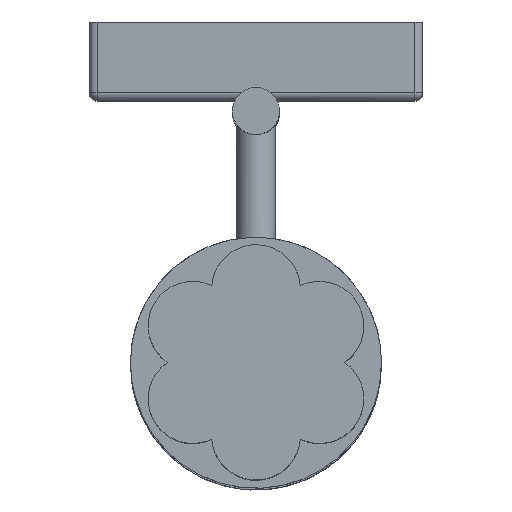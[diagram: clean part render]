
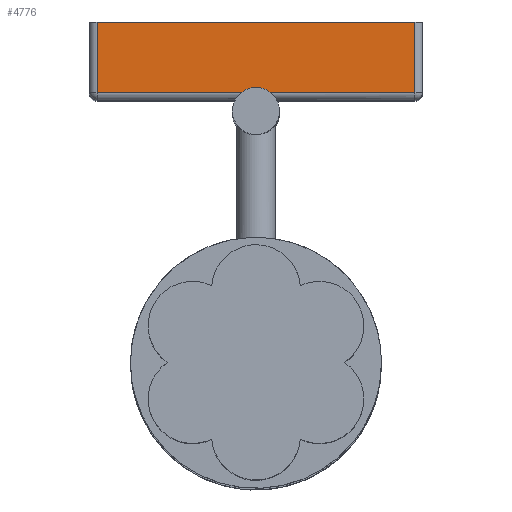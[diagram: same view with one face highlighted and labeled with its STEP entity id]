
A CAD part, top view. The second image highlights one B-rep face of the part: STEP entity #4776.
In plain terms, the highlighted planar face has unit normal (0, 0, 1).
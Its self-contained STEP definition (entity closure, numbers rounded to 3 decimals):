
#95 = CARTESIAN_POINT ( 'NONE',  ( 63556.078, -50.921, 814.566 ) ) ;
#625 = DIRECTION ( 'NONE',  ( 1., 0., 0. ) ) ;
#1002 = EDGE_CURVE ( 'NONE', #5498, #1252, #4849, .T. ) ;
#1252 = VERTEX_POINT ( 'NONE', #2782 ) ;
#1355 = FACE_OUTER_BOUND ( 'NONE', #4401, .T. ) ;
#1499 = VERTEX_POINT ( 'NONE', #2551 ) ;
#1676 = ORIENTED_EDGE ( 'NONE', *, *, #6156, .T. ) ;
#1856 = ORIENTED_EDGE ( 'NONE', *, *, #3988, .F. ) ;
#2160 = AXIS2_PLACEMENT_3D ( 'NONE', #95, #4055, #6379 ) ;
#2317 = ORIENTED_EDGE ( 'NONE', *, *, #4424, .T. ) ;
#2319 = PLANE ( 'NONE',  #3041 ) ;
#2496 = DIRECTION ( 'NONE',  ( 0., 0., 1. ) ) ;
#2551 = CARTESIAN_POINT ( 'NONE',  ( 63515.589, -28., 814.566 ) ) ;
#2569 = ORIENTED_EDGE ( 'NONE', *, *, #7265, .T. ) ;
#2778 = CARTESIAN_POINT ( 'NONE',  ( 63596.589, -28., 814.566 ) ) ;
#2782 = CARTESIAN_POINT ( 'NONE',  ( 63559.51, -46., 814.566 ) ) ;
#2805 = LINE ( 'NONE', #6356, #6692 ) ;
#2829 = LINE ( 'NONE', #6991, #6562 ) ;
#3041 = AXIS2_PLACEMENT_3D ( 'NONE', #4573, #2496, #5226 ) ;
#3550 = VERTEX_POINT ( 'NONE', #4050 ) ;
#3572 = LINE ( 'NONE', #5319, #4381 ) ;
#3671 = CARTESIAN_POINT ( 'NONE',  ( 63552.645, -46., 814.566 ) ) ;
#3988 = EDGE_CURVE ( 'NONE', #1499, #6520, #3572, .T. ) ;
#4050 = CARTESIAN_POINT ( 'NONE',  ( 63515.589, -46., 814.566 ) ) ;
#4055 = DIRECTION ( 'NONE',  ( 0., 0., -1. ) ) ;
#4381 = VECTOR ( 'NONE', #5856, 1000. ) ;
#4401 = EDGE_LOOP ( 'NONE', ( #1856, #5888, #2317, #5353, #2569, #1676 ) ) ;
#4424 = EDGE_CURVE ( 'NONE', #3550, #5498, #2829, .T. ) ;
#4573 = CARTESIAN_POINT ( 'NONE',  ( 63513.589, -220.409, 814.566 ) ) ;
#4776 = ADVANCED_FACE ( 'NONE', ( #1355 ), #2319, .T. ) ;
#4849 = CIRCLE ( 'NONE', #2160, 6. ) ;
#4997 = VECTOR ( 'NONE', #6048, 1000. ) ;
#5226 = DIRECTION ( 'NONE',  ( 1., 0., 0. ) ) ;
#5240 = VECTOR ( 'NONE', #625, 1000. ) ;
#5319 = CARTESIAN_POINT ( 'NONE',  ( 63513.589, -28., 814.566 ) ) ;
#5353 = ORIENTED_EDGE ( 'NONE', *, *, #1002, .T. ) ;
#5445 = LINE ( 'NONE', #6617, #4997 ) ;
#5498 = VERTEX_POINT ( 'NONE', #3671 ) ;
#5553 = CARTESIAN_POINT ( 'NONE',  ( 63596.589, -46., 814.566 ) ) ;
#5847 = DIRECTION ( 'NONE',  ( 1., 0., 0. ) ) ;
#5856 = DIRECTION ( 'NONE',  ( 1., 0., 0. ) ) ;
#5888 = ORIENTED_EDGE ( 'NONE', *, *, #6057, .T. ) ;
#6048 = DIRECTION ( 'NONE',  ( 0., 1., 0. ) ) ;
#6057 = EDGE_CURVE ( 'NONE', #1499, #3550, #2805, .T. ) ;
#6156 = EDGE_CURVE ( 'NONE', #6259, #6520, #5445, .T. ) ;
#6259 = VERTEX_POINT ( 'NONE', #5553 ) ;
#6356 = CARTESIAN_POINT ( 'NONE',  ( 63515.589, -220.409, 814.566 ) ) ;
#6369 = LINE ( 'NONE', #7089, #5240 ) ;
#6379 = DIRECTION ( 'NONE',  ( 1., 0., 0. ) ) ;
#6392 = DIRECTION ( 'NONE',  ( 0., -1., 0. ) ) ;
#6520 = VERTEX_POINT ( 'NONE', #2778 ) ;
#6562 = VECTOR ( 'NONE', #5847, 1000. ) ;
#6617 = CARTESIAN_POINT ( 'NONE',  ( 63596.589, -28., 814.566 ) ) ;
#6692 = VECTOR ( 'NONE', #6392, 1000. ) ;
#6991 = CARTESIAN_POINT ( 'NONE',  ( 63550.837, -46., 814.566 ) ) ;
#7089 = CARTESIAN_POINT ( 'NONE',  ( 63598.589, -46., 814.566 ) ) ;
#7265 = EDGE_CURVE ( 'NONE', #1252, #6259, #6369, .T. ) ;
